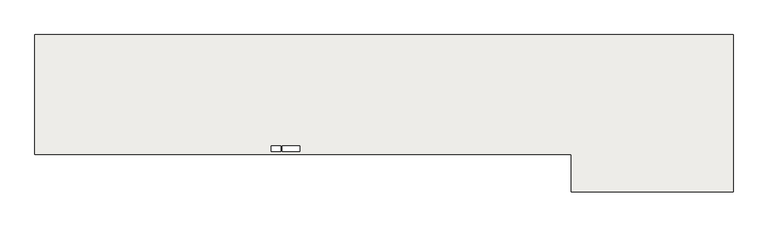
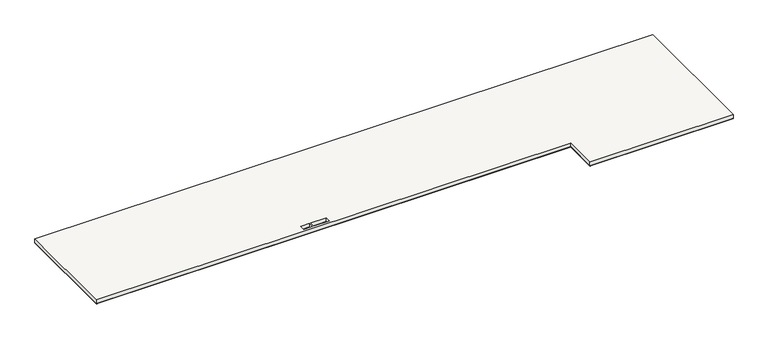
"""IFC4 building model written with IfcOpenShell, lengths in millimetres: slab geometry, Sol-02 - dalle béton 30cm + finition 1cm."""

from ifc_helpers import new_model, si_unit, frame, origin, origin_with_axes, place, context, project, spatial, polyline, outline, extrude, source, transform, mapped, element, save


def slab_1f8cf3db(model_context):
    return source(origin(), model_context, "Body", "SweptSolid", [
        extrude(outline(polyline([(0.0, 21752.649986), (0.0, 29903.1349959), (47414.9999799, 29903.1349959), (47414.9999799, 19203.1349969), (36415.0000007, 19203.1349969), (36415.0000007, 21752.649986), (0.0, 21752.649986)]), holes=[polyline([(16806.9999799, 22352.649986), (16806.9999799, 21952.649986), (17996.9999799, 21952.649986), (17996.9999799, 22352.649986), (16806.9999799, 22352.649986)]), polyline([(16036.9999799, 21952.649986), (16710.0000007, 21952.649986), (16710.0000007, 22352.649986), (16036.9999799, 22352.649986), (16036.9999799, 21952.649986)])]), origin_with_axes(), (0.0, 0.0, 1.0), 10.0),
        extrude(outline(polyline([(36415.0000007, 21752.649986), (0.0, 21752.649986), (0.0, 29903.1349959), (47414.9999799, 29903.1349959), (47414.9999799, 19203.1349969), (36415.0000007, 19203.1349969), (36415.0000007, 21752.649986)]), holes=[polyline([(16036.9999799, 21952.649986), (16710.0000007, 21952.649986), (16710.0000007, 22352.649986), (16036.9999799, 22352.649986), (16036.9999799, 21952.649986)]), polyline([(16806.9999799, 22352.649986), (16806.9999799, 21952.649986), (17996.9999799, 21952.649986), (17996.9999799, 22352.649986), (16806.9999799, 22352.649986)])]), frame((0.0, 0.0, 10.0), z_axis=(0.0, 0.0, 1.0), x_axis=(1.0, 0.0, 0.0)), (0.0, 0.0, 1.0), 300.0),
    ])


if __name__ == "__main__":
    model = new_model("IFC4")
    model_context = context("Model", 3, world=origin())
    ifc_project = project(units=[si_unit("LENGTHUNIT", "METRE", prefix="MILLI")], contexts=[model_context])
    site = spatial("IfcSite", under=ifc_project)
    building = spatial("IfcBuilding", under=site)
    placement = place(None, origin())
    slab_shape = slab_1f8cf3db(model_context)
    element("IfcSlab", 1, ObjectType="Sol-02 - dalle béton 30cm + finition 1cm", at=placement, inside=building, context=model_context, shape_type="MappedRepresentation", body=[
        mapped(slab_shape, transform((0.0, 0.0, 0.0), x_axis=(1.0, 0.0, 0.0), y_axis=(0.0, 1.0, 0.0), z_axis=(0.0, 0.0, 1.0))),
    ])
    save(model, "model.ifc")
